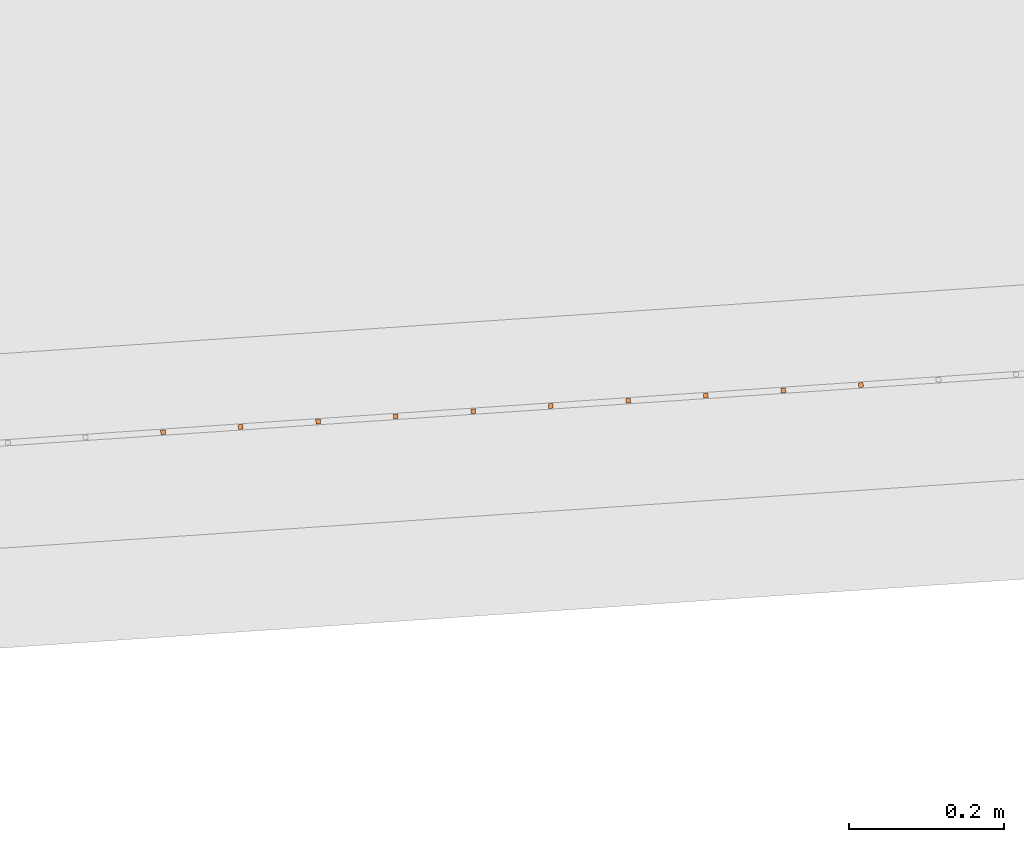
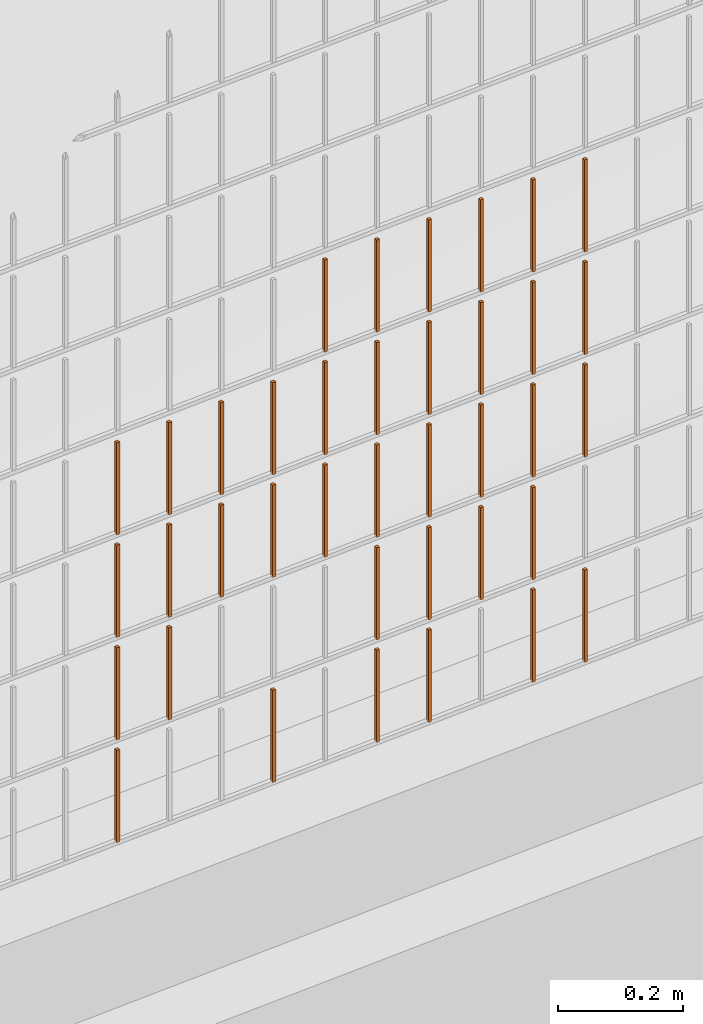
# One storey, part 129 of 1809: 38 proxies, 1 element without a shape of its own.
"""IFC2X3 building model written with IfcOpenShell, lengths in millimetres."""

from ifc_helpers import new_model, entity, si_unit, converted_unit, derived_unit, money_unit, direction, frame, origin_with_axes, place, context, subcontext, project, spatial, faceted_brep, source, transform, mapped, material, type_object, element, aggregate, save


model = new_model("IFC2X3")

# Units and contexts
model_context = context("Model", 3, precision=0.01, world=origin_with_axes(), true_north=direction((0.0, 1.0)))
body_context = subcontext(model_context, "Body", "Model", "MODEL_VIEW")
ifc_project = project(units=[si_unit("LENGTHUNIT", "METRE", prefix="MILLI"), si_unit("AREAUNIT", "SQUARE_METRE"), si_unit("VOLUMEUNIT", "CUBIC_METRE"), converted_unit("PLANEANGLEUNIT", "DEGREE", entity("IfcPlaneAngleMeasure", 0.0174532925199), si_unit("PLANEANGLEUNIT", "RADIAN"), dimensions=[0, 0, 0, 0, 0, 0, 0]), si_unit("SOLIDANGLEUNIT", "STERADIAN"), money_unit("EUR"), converted_unit("TIMEUNIT", "Year", entity("IfcTimeMeasure", 31556926.0), si_unit("TIMEUNIT", "SECOND"), dimensions=[0, 0, 1, 0, 0, 0, 0]), si_unit("MASSUNIT", "GRAM", prefix="KILO"), si_unit("THERMODYNAMICTEMPERATUREUNIT", "DEGREE_CELSIUS"), si_unit("LUMINOUSINTENSITYUNIT", "LUMEN"), si_unit("ENERGYUNIT", "JOULE", prefix="MEGA"), derived_unit("THERMALCONDUCTANCEUNIT", [(si_unit("POWERUNIT", "WATT"), 1), (si_unit("LENGTHUNIT", "METRE"), -1), (si_unit("THERMODYNAMICTEMPERATUREUNIT", "KELVIN"), -1)]), derived_unit("SPECIFICHEATCAPACITYUNIT", [(si_unit("ENERGYUNIT", "JOULE"), 1), (si_unit("MASSUNIT", "GRAM", prefix="KILO"), -1), (si_unit("THERMODYNAMICTEMPERATUREUNIT", "KELVIN"), -1)]), derived_unit("MASSDENSITYUNIT", [(si_unit("MASSUNIT", "GRAM", prefix="KILO"), 1), (si_unit("VOLUMEUNIT", "CUBIC_METRE"), -1)])], contexts=[model_context])

# Site, building, storey
site_placement = place(None, origin_with_axes())
site = spatial("IfcSite", under=ifc_project, at=site_placement, Name="Politse- ja Piirivalveameti ning Päästeameti ühishoone", CompositionType="ELEMENT")
building_placement = place(site_placement, origin_with_axes())
building = spatial("IfcBuilding", under=site, at=building_placement, Name="Politse- ja Piirivalveameti ning Päästeameti ühishoone", CompositionType="ELEMENT")
storey_placement = place(building_placement, origin_with_axes())
storey = spatial("IfcBuildingStorey", under=building, at=storey_placement, Name="Esimene korrus", CompositionType="ELEMENT", Elevation=0.0)

# Proxies
building_element_proxy_type_1 = type_object("IfcBuildingElementProxyType", Name="Railing Type", PredefinedType="NOTDEFINED")
proxy_1_placement = place(storey_placement, frame((89252.001212, -29183.4766571, 203.661247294), z_axis=(0.0, 0.0, 1.0), x_axis=(1.0, 0.0, 0.0)))
proxy_1 = element("IfcBuildingElementProxy", 1, at=proxy_1_placement, inside=storey, type_object=building_element_proxy_type_1, Name="PIIRDEAED")
ifc_material = material(Name="ET-03_Raud")
building_element_proxy_type_2 = type_object("IfcBuildingElementProxyType", Name="IfcBuildingElementProxy", PredefinedType="NOTDEFINED")
shared_shape_1 = source(origin_with_axes(), body_context, "Body", "Brep", [
    faceted_brep([(3.0, 3.0, -0.000752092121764), (-3.0, 3.0, -0.000752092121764), (-3.0, 3.0, 179.99926046), (3.0, 3.0, 179.99926046), (3.0, -3.0, 0.000752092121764), (-3.0, -3.0, 0.000752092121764), (-3.0, -3.0, 180.000764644), (3.0, -3.0, 180.000764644)], [[[0, 1, 2, 3]], [[0, 4, 5, 1]], [[1, 5, 6, 2]], [[3, 2, 6, 7]], [[4, 0, 3, 7]], [[5, 4, 7, 6]]]),
])
proxy_2_placement = place(proxy_1_placement, frame((-90221.1056283, -23391.8699646, 804.564652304), z_axis=(0.0, 0.0, 1.0), x_axis=(1.0, 0.0, 0.0)))
proxy_2 = element("IfcBuildingElementProxy", 2, at=proxy_2_placement, type_object=building_element_proxy_type_2, material=ifc_material, Name="BALUSTER - 001", context=body_context, shape_type="MappedRepresentation", body=[
    mapped(shared_shape_1, transform((0.0, 0.0, 0.0), x_axis=(-0.0673926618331, 0.997726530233, 0.0), y_axis=(-0.997726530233, -0.0673926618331, 0.0), z_axis=(0.0, 0.0, 1.0))),
])
shared_shape_2 = source(origin_with_axes(), body_context, "Body", "Brep", [
    faceted_brep([(3.0, 3.0, -0.000752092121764), (-3.0, 3.0, -0.000752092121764), (-3.0, 3.0, 179.99926046), (3.0, 3.0, 179.99926046), (3.0, -3.0, 0.000752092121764), (-3.0, -3.0, 0.000752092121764), (-3.0, -3.0, 180.000764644), (3.0, -3.0, 180.000764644)], [[[0, 1, 2, 3]], [[0, 4, 5, 1]], [[1, 5, 6, 2]], [[3, 2, 6, 7]], [[4, 0, 3, 7]], [[5, 4, 7, 6]]]),
])
proxy_3_placement = place(proxy_1_placement, frame((-90719.9688934, -23425.5662955, 804.439303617), z_axis=(0.0, 0.0, 1.0), x_axis=(1.0, 0.0, 0.0)))
proxy_3 = element("IfcBuildingElementProxy", 3, at=proxy_3_placement, type_object=building_element_proxy_type_2, material=ifc_material, Name="BALUSTER - 001", context=body_context, shape_type="MappedRepresentation", body=[
    mapped(shared_shape_2, transform((0.0, 0.0, 0.0), x_axis=(-0.0673926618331, 0.997726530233, 0.0), y_axis=(-0.997726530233, -0.0673926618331, 0.0), z_axis=(0.0, 0.0, 1.0))),
])
shared_shape_3 = source(origin_with_axes(), body_context, "Body", "Brep", [
    faceted_brep([(3.0, 3.0, -0.000752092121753), (-3.0, 3.0, -0.000752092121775), (-3.0, 3.0, 179.99926046), (3.0, 3.0, 179.99926046), (3.0, -3.0, 0.000752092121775), (-3.0, -3.0, 0.000752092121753), (-3.0, -3.0, 180.000764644), (3.0, -3.0, 180.000764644)], [[[0, 1, 2, 3]], [[0, 4, 5, 1]], [[1, 5, 6, 2]], [[3, 2, 6, 7]], [[4, 0, 3, 7]], [[5, 4, 7, 6]]]),
])
proxy_4_placement = place(proxy_1_placement, frame((-90320.8782813, -23398.6092308, 4.53958256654), z_axis=(0.0, 0.0, 1.0), x_axis=(1.0, 0.0, 0.0)))
proxy_4 = element("IfcBuildingElementProxy", 4, at=proxy_4_placement, type_object=building_element_proxy_type_2, material=ifc_material, Name="BALUSTER - 001", context=body_context, shape_type="MappedRepresentation", body=[
    mapped(shared_shape_3, transform((0.0, 0.0, 0.0), x_axis=(-0.0673926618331, 0.997726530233, 0.0), y_axis=(-0.997726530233, -0.0673926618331, 0.0), z_axis=(0.0, 0.0, 1.0))),
])
proxy_5_placement = place(proxy_1_placement, frame((-90320.8782813, -23398.6092308, 204.539582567), z_axis=(0.0, 0.0, 1.0), x_axis=(1.0, 0.0, 0.0)))
proxy_5 = element("IfcBuildingElementProxy", 5, at=proxy_5_placement, type_object=building_element_proxy_type_2, material=ifc_material, Name="BALUSTER - 001", context=body_context, shape_type="MappedRepresentation", body=[
    mapped(shared_shape_3, transform((0.0, 0.0, 0.0), x_axis=(-0.0673926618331, 0.997726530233, 0.0), y_axis=(-0.997726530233, -0.0673926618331, 0.0), z_axis=(0.0, 0.0, 1.0))),
])
shared_shape_4 = source(origin_with_axes(), body_context, "Body", "Brep", [
    faceted_brep([(3.0, 3.0, -0.000752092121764), (-3.0, 3.0, -0.000752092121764), (-3.0, 3.0, 179.99926046), (3.0, 3.0, 179.99926046), (3.0, -3.0, 0.000752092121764), (-3.0, -3.0, 0.000752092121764), (-3.0, -3.0, 180.000764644), (3.0, -3.0, 180.000764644)], [[[0, 1, 2, 3]], [[0, 4, 5, 1]], [[1, 5, 6, 2]], [[3, 2, 6, 7]], [[4, 0, 3, 7]], [[5, 4, 7, 6]]]),
])
proxy_6_placement = place(proxy_1_placement, frame((-90520.4235873, -23412.0877632, 4.48944309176), z_axis=(0.0, 0.0, 1.0), x_axis=(1.0, 0.0, 0.0)))
proxy_6 = element("IfcBuildingElementProxy", 6, at=proxy_6_placement, type_object=building_element_proxy_type_2, material=ifc_material, Name="BALUSTER - 001", context=body_context, shape_type="MappedRepresentation", body=[
    mapped(shared_shape_4, transform((0.0, 0.0, 0.0), x_axis=(-0.0673926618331, 0.997726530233, 0.0), y_axis=(-0.997726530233, -0.0673926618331, 0.0), z_axis=(0.0, 0.0, 1.0))),
])
shared_shape_5 = source(origin_with_axes(), body_context, "Body", "Brep", [
    faceted_brep([(3.0, 3.0, -0.000752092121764), (-3.0, 3.0, -0.000752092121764), (-3.0, 3.0, 179.99926046), (3.0, 3.0, 179.99926046), (3.0, -3.0, 0.000752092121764), (-3.0, -3.0, 0.000752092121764), (-3.0, -3.0, 180.000764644), (3.0, -3.0, 180.000764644)], [[[0, 1, 2, 3]], [[0, 4, 5, 1]], [[1, 5, 6, 2]], [[3, 2, 6, 7]], [[4, 0, 3, 7]], [[5, 4, 7, 6]]]),
])
proxy_7_placement = place(proxy_1_placement, frame((-90520.4235873, -23412.0877632, 204.489443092), z_axis=(0.0, 0.0, 1.0), x_axis=(1.0, 0.0, 0.0)))
proxy_7 = element("IfcBuildingElementProxy", 7, at=proxy_7_placement, type_object=building_element_proxy_type_2, material=ifc_material, Name="BALUSTER - 001", context=body_context, shape_type="MappedRepresentation", body=[
    mapped(shared_shape_5, transform((0.0, 0.0, 0.0), x_axis=(-0.0673926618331, 0.997726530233, 0.0), y_axis=(-0.997726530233, -0.0673926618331, 0.0), z_axis=(0.0, 0.0, 1.0))),
])
proxy_8_placement = place(proxy_1_placement, frame((-90520.4235873, -23412.0877632, 404.489443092), z_axis=(0.0, 0.0, 1.0), x_axis=(1.0, 0.0, 0.0)))
proxy_8 = element("IfcBuildingElementProxy", 8, at=proxy_8_placement, type_object=building_element_proxy_type_2, material=ifc_material, Name="BALUSTER - 001", context=body_context, shape_type="MappedRepresentation", body=[
    mapped(shared_shape_5, transform((0.0, 0.0, 0.0), x_axis=(-0.0673926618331, 0.997726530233, 0.0), y_axis=(-0.997726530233, -0.0673926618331, 0.0), z_axis=(0.0, 0.0, 1.0))),
])
proxy_9_placement = place(proxy_1_placement, frame((-90919.5141994, -23439.0448279, 404.389164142), z_axis=(0.0, 0.0, 1.0), x_axis=(1.0, 0.0, 0.0)))
proxy_9 = element("IfcBuildingElementProxy", 9, at=proxy_9_placement, type_object=building_element_proxy_type_2, material=ifc_material, Name="BALUSTER - 001", context=body_context, shape_type="MappedRepresentation", body=[
    mapped(shared_shape_5, transform((0.0, 0.0, 0.0), x_axis=(-0.0673926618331, 0.997726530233, 0.0), y_axis=(-0.997726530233, -0.0673926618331, 0.0), z_axis=(0.0, 0.0, 1.0))),
])
proxy_10_placement = place(proxy_1_placement, frame((-91019.2868524, -23445.7840941, 404.364094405), z_axis=(0.0, 0.0, 1.0), x_axis=(1.0, 0.0, 0.0)))
proxy_10 = element("IfcBuildingElementProxy", 10, at=proxy_10_placement, type_object=building_element_proxy_type_2, material=ifc_material, Name="BALUSTER - 001", context=body_context, shape_type="MappedRepresentation", body=[
    mapped(shared_shape_5, transform((0.0, 0.0, 0.0), x_axis=(-0.0673926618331, 0.997726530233, 0.0), y_axis=(-0.997726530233, -0.0673926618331, 0.0), z_axis=(0.0, 0.0, 1.0))),
])
proxy_11_placement = place(proxy_1_placement, frame((-91019.2868524, -23445.7840941, 604.364094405), z_axis=(0.0, 0.0, 1.0), x_axis=(1.0, 0.0, 0.0)))
proxy_11 = element("IfcBuildingElementProxy", 11, at=proxy_11_placement, type_object=building_element_proxy_type_2, material=ifc_material, Name="BALUSTER - 001", context=body_context, shape_type="MappedRepresentation", body=[
    mapped(shared_shape_5, transform((0.0, 0.0, 0.0), x_axis=(-0.0673926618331, 0.997726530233, 0.0), y_axis=(-0.997726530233, -0.0673926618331, 0.0), z_axis=(0.0, 0.0, 1.0))),
])
shared_shape_6 = source(origin_with_axes(), body_context, "Body", "Brep", [
    faceted_brep([(3.0, 3.0, -0.000752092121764), (-3.0, 3.0, -0.000752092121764), (-3.0, 3.0, 179.99926046), (3.0, 3.0, 179.99926046), (3.0, -3.0, 0.000752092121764), (-3.0, -3.0, 0.000752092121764), (-3.0, -3.0, 180.000764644), (3.0, -3.0, 180.000764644)], [[[0, 1, 2, 3]], [[0, 4, 5, 1]], [[1, 5, 6, 2]], [[3, 2, 6, 7]], [[4, 0, 3, 7]], [[5, 4, 7, 6]]]),
])
proxy_12_placement = place(proxy_1_placement, frame((-90520.4235873, -23412.0877632, 604.489443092), z_axis=(0.0, 0.0, 1.0), x_axis=(1.0, 0.0, 0.0)))
proxy_12 = element("IfcBuildingElementProxy", 12, at=proxy_12_placement, type_object=building_element_proxy_type_2, material=ifc_material, Name="BALUSTER - 001", context=body_context, shape_type="MappedRepresentation", body=[
    mapped(shared_shape_6, transform((0.0, 0.0, 0.0), x_axis=(-0.0673926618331, 0.997726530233, 0.0), y_axis=(-0.997726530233, -0.0673926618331, 0.0), z_axis=(0.0, 0.0, 1.0))),
])
shared_shape_7 = source(origin_with_axes(), body_context, "Body", "Brep", [
    faceted_brep([(3.0, 3.0, -0.000752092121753), (-3.0, 3.0, -0.000752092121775), (-3.0, 3.0, 179.99926046), (3.0, 3.0, 179.99926046), (3.0, -3.0, 0.000752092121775), (-3.0, -3.0, 0.000752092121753), (-3.0, -3.0, 180.000764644), (3.0, -3.0, 180.000764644)], [[[0, 1, 2, 3]], [[0, 4, 5, 1]], [[1, 5, 6, 2]], [[3, 2, 6, 7]], [[4, 0, 3, 7]], [[5, 4, 7, 6]]]),
])
proxy_13_placement = place(proxy_1_placement, frame((-90320.8782813, -23398.6092308, 604.539582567), z_axis=(0.0, 0.0, 1.0), x_axis=(1.0, 0.0, 0.0)))
proxy_13 = element("IfcBuildingElementProxy", 13, at=proxy_13_placement, type_object=building_element_proxy_type_2, material=ifc_material, Name="BALUSTER - 001", context=body_context, shape_type="MappedRepresentation", body=[
    mapped(shared_shape_7, transform((0.0, 0.0, 0.0), x_axis=(-0.0673926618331, 0.997726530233, 0.0), y_axis=(-0.997726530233, -0.0673926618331, 0.0), z_axis=(0.0, 0.0, 1.0))),
])
proxy_14_placement = place(proxy_1_placement, frame((-90320.8782813, -23398.6092308, 804.539582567), z_axis=(0.0, 0.0, 1.0), x_axis=(1.0, 0.0, 0.0)))
proxy_14 = element("IfcBuildingElementProxy", 14, at=proxy_14_placement, type_object=building_element_proxy_type_2, material=ifc_material, Name="BALUSTER - 001", context=body_context, shape_type="MappedRepresentation", body=[
    mapped(shared_shape_7, transform((0.0, 0.0, 0.0), x_axis=(-0.0673926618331, 0.997726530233, 0.0), y_axis=(-0.997726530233, -0.0673926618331, 0.0), z_axis=(0.0, 0.0, 1.0))),
])
shared_shape_8 = source(origin_with_axes(), body_context, "Body", "Brep", [
    faceted_brep([(3.0, 3.0, -0.000752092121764), (-3.0, 3.0, -0.000752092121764), (-3.0, 3.0, 179.99926046), (3.0, 3.0, 179.99926046), (3.0, -3.0, 0.000752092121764), (-3.0, -3.0, 0.000752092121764), (-3.0, -3.0, 180.000764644), (3.0, -3.0, 180.000764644)], [[[0, 1, 2, 3]], [[0, 4, 5, 1]], [[1, 5, 6, 2]], [[3, 2, 6, 7]], [[4, 0, 3, 7]], [[5, 4, 7, 6]]]),
])
proxy_15_placement = place(proxy_1_placement, frame((-90520.4235873, -23412.0877632, 804.489443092), z_axis=(0.0, 0.0, 1.0), x_axis=(1.0, 0.0, 0.0)))
proxy_15 = element("IfcBuildingElementProxy", 15, at=proxy_15_placement, type_object=building_element_proxy_type_2, material=ifc_material, Name="BALUSTER - 001", context=body_context, shape_type="MappedRepresentation", body=[
    mapped(shared_shape_8, transform((0.0, 0.0, 0.0), x_axis=(-0.0673926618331, 0.997726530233, 0.0), y_axis=(-0.997726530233, -0.0673926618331, 0.0), z_axis=(0.0, 0.0, 1.0))),
])
shared_shape_9 = source(origin_with_axes(), body_context, "Body", "Brep", [
    faceted_brep([(3.0, 3.0, -0.000752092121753), (-3.0, 3.0, -0.000752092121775), (-3.0, 3.0, 179.99926046), (3.0, 3.0, 179.99926046), (3.0, -3.0, 0.000752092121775), (-3.0, -3.0, 0.000752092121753), (-3.0, -3.0, 180.000764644), (3.0, -3.0, 180.000764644)], [[[0, 1, 2, 3]], [[0, 4, 5, 1]], [[1, 5, 6, 2]], [[3, 2, 6, 7]], [[4, 0, 3, 7]], [[5, 4, 7, 6]]]),
])
proxy_16_placement = place(proxy_1_placement, frame((-90320.8782813, -23398.6092308, 404.539582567), z_axis=(0.0, 0.0, 1.0), x_axis=(1.0, 0.0, 0.0)))
proxy_16 = element("IfcBuildingElementProxy", 16, at=proxy_16_placement, type_object=building_element_proxy_type_2, material=ifc_material, Name="BALUSTER - 001", context=body_context, shape_type="MappedRepresentation", body=[
    mapped(shared_shape_9, transform((0.0, 0.0, 0.0), x_axis=(-0.0673926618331, 0.997726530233, 0.0), y_axis=(-0.997726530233, -0.0673926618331, 0.0), z_axis=(0.0, 0.0, 1.0))),
])
shared_shape_10 = source(origin_with_axes(), body_context, "Body", "Brep", [
    faceted_brep([(3.0, 3.0, -0.000752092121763), (-3.0, 3.0, -0.000752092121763), (-3.0, 3.0, 179.99926046), (3.0, 3.0, 179.99926046), (3.0, -3.0, 0.000752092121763), (-3.0, -3.0, 0.000752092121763), (-3.0, -3.0, 180.000764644), (3.0, -3.0, 180.000764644)], [[[0, 1, 2, 3]], [[0, 4, 5, 1]], [[1, 5, 6, 2]], [[3, 2, 6, 7]], [[4, 0, 3, 7]], [[5, 4, 7, 6]]]),
])
proxy_17_placement = place(proxy_1_placement, frame((-90221.1056283, -23391.8699646, 4.56465230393), z_axis=(0.0, 0.0, 1.0), x_axis=(1.0, 0.0, 0.0)))
proxy_17 = element("IfcBuildingElementProxy", 17, at=proxy_17_placement, type_object=building_element_proxy_type_2, material=ifc_material, Name="BALUSTER - 001", context=body_context, shape_type="MappedRepresentation", body=[
    mapped(shared_shape_10, transform((0.0, 0.0, 0.0), x_axis=(-0.0673926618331, 0.997726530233, 0.0), y_axis=(-0.997726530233, -0.0673926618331, 0.0), z_axis=(0.0, 0.0, 1.0))),
])
proxy_18_placement = place(proxy_1_placement, frame((-90620.1962404, -23418.8270294, 4.46437335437), z_axis=(0.0, 0.0, 1.0), x_axis=(1.0, 0.0, 0.0)))
proxy_18 = element("IfcBuildingElementProxy", 18, at=proxy_18_placement, type_object=building_element_proxy_type_2, material=ifc_material, Name="BALUSTER - 001", context=body_context, shape_type="MappedRepresentation", body=[
    mapped(shared_shape_10, transform((0.0, 0.0, 0.0), x_axis=(-0.0673926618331, 0.997726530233, 0.0), y_axis=(-0.997726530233, -0.0673926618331, 0.0), z_axis=(0.0, 0.0, 1.0))),
])
shared_shape_11 = source(origin_with_axes(), body_context, "Body", "Brep", [
    faceted_brep([(3.0, 3.0, -0.000752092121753), (-3.0, 3.0, -0.000752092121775), (-3.0, 3.0, 179.99926046), (3.0, 3.0, 179.99926046), (3.0, -3.0, 0.000752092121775), (-3.0, -3.0, 0.000752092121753), (-3.0, -3.0, 180.000764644), (3.0, -3.0, 180.000764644)], [[[0, 1, 2, 3]], [[0, 4, 5, 1]], [[1, 5, 6, 2]], [[3, 2, 6, 7]], [[4, 0, 3, 7]], [[5, 4, 7, 6]]]),
])
proxy_19_placement = place(proxy_1_placement, frame((-91119.0595055, -23452.5233603, 204.339024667), z_axis=(0.0, 0.0, 1.0), x_axis=(1.0, 0.0, 0.0)))
proxy_19 = element("IfcBuildingElementProxy", 19, at=proxy_19_placement, type_object=building_element_proxy_type_2, material=ifc_material, Name="BALUSTER - 001", context=body_context, shape_type="MappedRepresentation", body=[
    mapped(shared_shape_11, transform((0.0, 0.0, 0.0), x_axis=(-0.0673926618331, 0.997726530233, 0.0), y_axis=(-0.997726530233, -0.0673926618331, 0.0), z_axis=(0.0, 0.0, 1.0))),
])
proxy_20_placement = place(proxy_1_placement, frame((-91119.0595055, -23452.5233603, 604.339024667), z_axis=(0.0, 0.0, 1.0), x_axis=(1.0, 0.0, 0.0)))
proxy_20 = element("IfcBuildingElementProxy", 20, at=proxy_20_placement, type_object=building_element_proxy_type_2, material=ifc_material, Name="BALUSTER - 001", context=body_context, shape_type="MappedRepresentation", body=[
    mapped(shared_shape_11, transform((0.0, 0.0, 0.0), x_axis=(-0.0673926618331, 0.997726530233, 0.0), y_axis=(-0.997726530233, -0.0673926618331, 0.0), z_axis=(0.0, 0.0, 1.0))),
])
shared_shape_12 = source(origin_with_axes(), body_context, "Body", "Brep", [
    faceted_brep([(3.0, 3.0, -0.000752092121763), (-3.0, 3.0, -0.000752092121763), (-3.0, 3.0, 179.99926046), (3.0, 3.0, 179.99926046), (3.0, -3.0, 0.000752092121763), (-3.0, -3.0, 0.000752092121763), (-3.0, -3.0, 180.000764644), (3.0, -3.0, 180.000764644)], [[[0, 1, 2, 3]], [[0, 4, 5, 1]], [[1, 5, 6, 2]], [[3, 2, 6, 7]], [[4, 0, 3, 7]], [[5, 4, 7, 6]]]),
])
proxy_21_placement = place(proxy_1_placement, frame((-90719.9688934, -23425.5662955, 404.439303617), z_axis=(0.0, 0.0, 1.0), x_axis=(1.0, 0.0, 0.0)))
proxy_21 = element("IfcBuildingElementProxy", 21, at=proxy_21_placement, type_object=building_element_proxy_type_2, material=ifc_material, Name="BALUSTER - 001", context=body_context, shape_type="MappedRepresentation", body=[
    mapped(shared_shape_12, transform((0.0, 0.0, 0.0), x_axis=(-0.0673926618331, 0.997726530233, 0.0), y_axis=(-0.997726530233, -0.0673926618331, 0.0), z_axis=(0.0, 0.0, 1.0))),
])
proxy_22_placement = place(proxy_1_placement, frame((-90719.9688934, -23425.5662955, 604.439303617), z_axis=(0.0, 0.0, 1.0), x_axis=(1.0, 0.0, 0.0)))
proxy_22 = element("IfcBuildingElementProxy", 22, at=proxy_22_placement, type_object=building_element_proxy_type_2, material=ifc_material, Name="BALUSTER - 001", context=body_context, shape_type="MappedRepresentation", body=[
    mapped(shared_shape_12, transform((0.0, 0.0, 0.0), x_axis=(-0.0673926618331, 0.997726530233, 0.0), y_axis=(-0.997726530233, -0.0673926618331, 0.0), z_axis=(0.0, 0.0, 1.0))),
])
shared_shape_13 = source(origin_with_axes(), body_context, "Body", "Brep", [
    faceted_brep([(3.0, 3.0, -0.000752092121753), (-3.0, 3.0, -0.000752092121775), (-3.0, 3.0, 179.99926046), (3.0, 3.0, 179.99926046), (3.0, -3.0, 0.000752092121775), (-3.0, -3.0, 0.000752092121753), (-3.0, -3.0, 180.000764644), (3.0, -3.0, 180.000764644)], [[[0, 1, 2, 3]], [[0, 4, 5, 1]], [[1, 5, 6, 2]], [[3, 2, 6, 7]], [[4, 0, 3, 7]], [[5, 4, 7, 6]]]),
])
proxy_23_placement = place(proxy_1_placement, frame((-91119.0595055, -23452.5233603, 4.33902466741), z_axis=(0.0, 0.0, 1.0), x_axis=(1.0, 0.0, 0.0)))
proxy_23 = element("IfcBuildingElementProxy", 23, at=proxy_23_placement, type_object=building_element_proxy_type_2, material=ifc_material, Name="BALUSTER - 001", context=body_context, shape_type="MappedRepresentation", body=[
    mapped(shared_shape_13, transform((0.0, 0.0, 0.0), x_axis=(-0.0673926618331, 0.997726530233, 0.0), y_axis=(-0.997726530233, -0.0673926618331, 0.0), z_axis=(0.0, 0.0, 1.0))),
])
shared_shape_14 = source(origin_with_axes(), body_context, "Body", "Brep", [
    faceted_brep([(3.0, 3.0, -0.000752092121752), (-3.0, 3.0, -0.000752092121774), (-3.0, 3.0, 179.99926046), (3.0, 3.0, 179.99926046), (3.0, -3.0, 0.000752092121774), (-3.0, -3.0, 0.000752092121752), (-3.0, -3.0, 180.000764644), (3.0, -3.0, 180.000764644)], [[[0, 1, 2, 3]], [[0, 4, 5, 1]], [[1, 5, 6, 2]], [[3, 2, 6, 7]], [[4, 0, 3, 7]], [[5, 4, 7, 6]]]),
])
proxy_24_placement = place(proxy_1_placement, frame((-90819.7415464, -23432.3055617, 604.41423388), z_axis=(0.0, 0.0, 1.0), x_axis=(1.0, 0.0, 0.0)))
proxy_24 = element("IfcBuildingElementProxy", 24, at=proxy_24_placement, type_object=building_element_proxy_type_2, material=ifc_material, Name="BALUSTER - 001", context=body_context, shape_type="MappedRepresentation", body=[
    mapped(shared_shape_14, transform((0.0, 0.0, 0.0), x_axis=(-0.0673926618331, 0.997726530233, 0.0), y_axis=(-0.997726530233, -0.0673926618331, 0.0), z_axis=(0.0, 0.0, 1.0))),
])
shared_shape_15 = source(origin_with_axes(), body_context, "Body", "Brep", [
    faceted_brep([(3.0, 3.0, -0.000752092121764), (-3.0, 3.0, -0.000752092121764), (-3.0, 3.0, 179.99926046), (3.0, 3.0, 179.99926046), (3.0, -3.0, 0.000752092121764), (-3.0, -3.0, 0.000752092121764), (-3.0, -3.0, 180.000764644), (3.0, -3.0, 180.000764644)], [[[0, 1, 2, 3]], [[0, 4, 5, 1]], [[1, 5, 6, 2]], [[3, 2, 6, 7]], [[4, 0, 3, 7]], [[5, 4, 7, 6]]]),
])
proxy_25_placement = place(proxy_1_placement, frame((-90919.5141994, -23439.0448279, 604.389164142), z_axis=(0.0, 0.0, 1.0), x_axis=(1.0, 0.0, 0.0)))
proxy_25 = element("IfcBuildingElementProxy", 25, at=proxy_25_placement, type_object=building_element_proxy_type_2, material=ifc_material, Name="BALUSTER - 001", context=body_context, shape_type="MappedRepresentation", body=[
    mapped(shared_shape_15, transform((0.0, 0.0, 0.0), x_axis=(-0.0673926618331, 0.997726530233, 0.0), y_axis=(-0.997726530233, -0.0673926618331, 0.0), z_axis=(0.0, 0.0, 1.0))),
])
shared_shape_16 = source(origin_with_axes(), body_context, "Body", "Brep", [
    faceted_brep([(3.0, 3.0, -0.000752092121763), (-3.0, 3.0, -0.000752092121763), (-3.0, 3.0, 179.99926046), (3.0, 3.0, 179.99926046), (3.0, -3.0, 0.000752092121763), (-3.0, -3.0, 0.000752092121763), (-3.0, -3.0, 180.000764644), (3.0, -3.0, 180.000764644)], [[[0, 1, 2, 3]], [[0, 4, 5, 1]], [[1, 5, 6, 2]], [[3, 2, 6, 7]], [[4, 0, 3, 7]], [[5, 4, 7, 6]]]),
])
proxy_26_placement = place(proxy_1_placement, frame((-90420.6509343, -23405.348497, 804.514512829), z_axis=(0.0, 0.0, 1.0), x_axis=(1.0, 0.0, 0.0)))
proxy_26 = element("IfcBuildingElementProxy", 26, at=proxy_26_placement, type_object=building_element_proxy_type_2, material=ifc_material, Name="BALUSTER - 001", context=body_context, shape_type="MappedRepresentation", body=[
    mapped(shared_shape_16, transform((0.0, 0.0, 0.0), x_axis=(-0.0673926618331, 0.997726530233, 0.0), y_axis=(-0.997726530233, -0.0673926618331, 0.0), z_axis=(0.0, 0.0, 1.0))),
])
shared_shape_17 = source(origin_with_axes(), body_context, "Body", "Brep", [
    faceted_brep([(3.0, 3.0, -0.000752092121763), (-3.0, 3.0, -0.000752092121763), (-3.0, 3.0, 179.99926046), (3.0, 3.0, 179.99926046), (3.0, -3.0, 0.000752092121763), (-3.0, -3.0, 0.000752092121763), (-3.0, -3.0, 180.000764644), (3.0, -3.0, 180.000764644)], [[[0, 1, 2, 3]], [[0, 4, 5, 1]], [[1, 5, 6, 2]], [[3, 2, 6, 7]], [[4, 0, 3, 7]], [[5, 4, 7, 6]]]),
])
proxy_27_placement = place(proxy_1_placement, frame((-90620.1962404, -23418.8270294, 804.464373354), z_axis=(0.0, 0.0, 1.0), x_axis=(1.0, 0.0, 0.0)))
proxy_27 = element("IfcBuildingElementProxy", 27, at=proxy_27_placement, type_object=building_element_proxy_type_2, material=ifc_material, Name="BALUSTER - 001", context=body_context, shape_type="MappedRepresentation", body=[
    mapped(shared_shape_17, transform((0.0, 0.0, 0.0), x_axis=(-0.0673926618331, 0.997726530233, 0.0), y_axis=(-0.997726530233, -0.0673926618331, 0.0), z_axis=(0.0, 0.0, 1.0))),
])
shared_shape_18 = source(origin_with_axes(), body_context, "Body", "Brep", [
    faceted_brep([(3.0, 3.0, -0.000752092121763), (-3.0, 3.0, -0.000752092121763), (-3.0, 3.0, 179.99926046), (3.0, 3.0, 179.99926046), (3.0, -3.0, 0.000752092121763), (-3.0, -3.0, 0.000752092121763), (-3.0, -3.0, 180.000764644), (3.0, -3.0, 180.000764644)], [[[0, 1, 2, 3]], [[0, 4, 5, 1]], [[1, 5, 6, 2]], [[3, 2, 6, 7]], [[4, 0, 3, 7]], [[5, 4, 7, 6]]]),
])
proxy_28_placement = place(proxy_1_placement, frame((-91019.2868524, -23445.7840941, 204.364094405), z_axis=(0.0, 0.0, 1.0), x_axis=(1.0, 0.0, 0.0)))
proxy_28 = element("IfcBuildingElementProxy", 28, at=proxy_28_placement, type_object=building_element_proxy_type_2, material=ifc_material, Name="BALUSTER - 001", context=body_context, shape_type="MappedRepresentation", body=[
    mapped(shared_shape_18, transform((0.0, 0.0, 0.0), x_axis=(-0.0673926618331, 0.997726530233, 0.0), y_axis=(-0.997726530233, -0.0673926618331, 0.0), z_axis=(0.0, 0.0, 1.0))),
])
shared_shape_19 = source(origin_with_axes(), body_context, "Body", "Brep", [
    faceted_brep([(3.0, 3.0, -0.000752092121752), (-3.0, 3.0, -0.000752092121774), (-3.0, 3.0, 179.99926046), (3.0, 3.0, 179.99926046), (3.0, -3.0, 0.000752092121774), (-3.0, -3.0, 0.000752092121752), (-3.0, -3.0, 180.000764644), (3.0, -3.0, 180.000764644)], [[[0, 1, 2, 3]], [[0, 4, 5, 1]], [[1, 5, 6, 2]], [[3, 2, 6, 7]], [[4, 0, 3, 7]], [[5, 4, 7, 6]]]),
])
proxy_29_placement = place(proxy_1_placement, frame((-90819.7415464, -23432.3055617, 4.41423387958), z_axis=(0.0, 0.0, 1.0), x_axis=(1.0, 0.0, 0.0)))
proxy_29 = element("IfcBuildingElementProxy", 29, at=proxy_29_placement, type_object=building_element_proxy_type_2, material=ifc_material, Name="BALUSTER - 001", context=body_context, shape_type="MappedRepresentation", body=[
    mapped(shared_shape_19, transform((0.0, 0.0, 0.0), x_axis=(-0.0673926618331, 0.997726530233, 0.0), y_axis=(-0.997726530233, -0.0673926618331, 0.0), z_axis=(0.0, 0.0, 1.0))),
])
shared_shape_20 = source(origin_with_axes(), body_context, "Body", "Brep", [
    faceted_brep([(3.0, 3.0, -0.000752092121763), (-3.0, 3.0, -0.000752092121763), (-3.0, 3.0, 179.99926046), (3.0, 3.0, 179.99926046), (3.0, -3.0, 0.000752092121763), (-3.0, -3.0, 0.000752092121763), (-3.0, -3.0, 180.000764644), (3.0, -3.0, 180.000764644)], [[[0, 1, 2, 3]], [[0, 4, 5, 1]], [[1, 5, 6, 2]], [[3, 2, 6, 7]], [[4, 0, 3, 7]], [[5, 4, 7, 6]]]),
])
proxy_30_placement = place(proxy_1_placement, frame((-90420.6509343, -23405.348497, 204.514512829), z_axis=(0.0, 0.0, 1.0), x_axis=(1.0, 0.0, 0.0)))
proxy_30 = element("IfcBuildingElementProxy", 30, at=proxy_30_placement, type_object=building_element_proxy_type_2, material=ifc_material, Name="BALUSTER - 001", context=body_context, shape_type="MappedRepresentation", body=[
    mapped(shared_shape_20, transform((0.0, 0.0, 0.0), x_axis=(-0.0673926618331, 0.997726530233, 0.0), y_axis=(-0.997726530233, -0.0673926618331, 0.0), z_axis=(0.0, 0.0, 1.0))),
])
proxy_31_placement = place(proxy_1_placement, frame((-90221.1056283, -23391.8699646, 404.564652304), z_axis=(0.0, 0.0, 1.0), x_axis=(1.0, 0.0, 0.0)))
proxy_31 = element("IfcBuildingElementProxy", 31, at=proxy_31_placement, type_object=building_element_proxy_type_2, material=ifc_material, Name="BALUSTER - 001", context=body_context, shape_type="MappedRepresentation", body=[
    mapped(shared_shape_20, transform((0.0, 0.0, 0.0), x_axis=(-0.0673926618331, 0.997726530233, 0.0), y_axis=(-0.997726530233, -0.0673926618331, 0.0), z_axis=(0.0, 0.0, 1.0))),
])
proxy_32_placement = place(proxy_1_placement, frame((-90620.1962404, -23418.8270294, 404.464373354), z_axis=(0.0, 0.0, 1.0), x_axis=(1.0, 0.0, 0.0)))
proxy_32 = element("IfcBuildingElementProxy", 32, at=proxy_32_placement, type_object=building_element_proxy_type_2, material=ifc_material, Name="BALUSTER - 001", context=body_context, shape_type="MappedRepresentation", body=[
    mapped(shared_shape_20, transform((0.0, 0.0, 0.0), x_axis=(-0.0673926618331, 0.997726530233, 0.0), y_axis=(-0.997726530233, -0.0673926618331, 0.0), z_axis=(0.0, 0.0, 1.0))),
])
proxy_33_placement = place(proxy_1_placement, frame((-90420.6509343, -23405.348497, 604.514512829), z_axis=(0.0, 0.0, 1.0), x_axis=(1.0, 0.0, 0.0)))
proxy_33 = element("IfcBuildingElementProxy", 33, at=proxy_33_placement, type_object=building_element_proxy_type_2, material=ifc_material, Name="BALUSTER - 001", context=body_context, shape_type="MappedRepresentation", body=[
    mapped(shared_shape_20, transform((0.0, 0.0, 0.0), x_axis=(-0.0673926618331, 0.997726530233, 0.0), y_axis=(-0.997726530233, -0.0673926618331, 0.0), z_axis=(0.0, 0.0, 1.0))),
])
proxy_34_placement = place(proxy_1_placement, frame((-90620.1962404, -23418.8270294, 604.464373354), z_axis=(0.0, 0.0, 1.0), x_axis=(1.0, 0.0, 0.0)))
proxy_34 = element("IfcBuildingElementProxy", 34, at=proxy_34_placement, type_object=building_element_proxy_type_2, material=ifc_material, Name="BALUSTER - 001", context=body_context, shape_type="MappedRepresentation", body=[
    mapped(shared_shape_20, transform((0.0, 0.0, 0.0), x_axis=(-0.0673926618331, 0.997726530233, 0.0), y_axis=(-0.997726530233, -0.0673926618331, 0.0), z_axis=(0.0, 0.0, 1.0))),
])
shared_shape_21 = source(origin_with_axes(), body_context, "Body", "Brep", [
    faceted_brep([(3.0, 3.0, -0.000752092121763), (-3.0, 3.0, -0.000752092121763), (-3.0, 3.0, 179.99926046), (3.0, 3.0, 179.99926046), (3.0, -3.0, 0.000752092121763), (-3.0, -3.0, 0.000752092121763), (-3.0, -3.0, 180.000764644), (3.0, -3.0, 180.000764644)], [[[0, 1, 2, 3]], [[0, 4, 5, 1]], [[1, 5, 6, 2]], [[3, 2, 6, 7]], [[4, 0, 3, 7]], [[5, 4, 7, 6]]]),
])
proxy_35_placement = place(proxy_1_placement, frame((-90620.1962404, -23418.8270294, 204.464373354), z_axis=(0.0, 0.0, 1.0), x_axis=(1.0, 0.0, 0.0)))
proxy_35 = element("IfcBuildingElementProxy", 35, at=proxy_35_placement, type_object=building_element_proxy_type_2, material=ifc_material, Name="BALUSTER - 001", context=body_context, shape_type="MappedRepresentation", body=[
    mapped(shared_shape_21, transform((0.0, 0.0, 0.0), x_axis=(-0.0673926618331, 0.997726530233, 0.0), y_axis=(-0.997726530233, -0.0673926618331, 0.0), z_axis=(0.0, 0.0, 1.0))),
])
proxy_36_placement = place(proxy_1_placement, frame((-90420.6509343, -23405.348497, 404.514512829), z_axis=(0.0, 0.0, 1.0), x_axis=(1.0, 0.0, 0.0)))
proxy_36 = element("IfcBuildingElementProxy", 36, at=proxy_36_placement, type_object=building_element_proxy_type_2, material=ifc_material, Name="BALUSTER - 001", context=body_context, shape_type="MappedRepresentation", body=[
    mapped(shared_shape_21, transform((0.0, 0.0, 0.0), x_axis=(-0.0673926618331, 0.997726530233, 0.0), y_axis=(-0.997726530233, -0.0673926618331, 0.0), z_axis=(0.0, 0.0, 1.0))),
])
proxy_37_placement = place(proxy_1_placement, frame((-90221.1056283, -23391.8699646, 604.564652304), z_axis=(0.0, 0.0, 1.0), x_axis=(1.0, 0.0, 0.0)))
proxy_37 = element("IfcBuildingElementProxy", 37, at=proxy_37_placement, type_object=building_element_proxy_type_2, material=ifc_material, Name="BALUSTER - 001", context=body_context, shape_type="MappedRepresentation", body=[
    mapped(shared_shape_21, transform((0.0, 0.0, 0.0), x_axis=(-0.0673926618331, 0.997726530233, 0.0), y_axis=(-0.997726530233, -0.0673926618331, 0.0), z_axis=(0.0, 0.0, 1.0))),
])
shared_shape_22 = source(origin_with_axes(), body_context, "Body", "Brep", [
    faceted_brep([(3.0, 3.0, -0.000752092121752), (-3.0, 3.0, -0.000752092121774), (-3.0, 3.0, 179.99926046), (3.0, 3.0, 179.99926046), (3.0, -3.0, 0.000752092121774), (-3.0, -3.0, 0.000752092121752), (-3.0, -3.0, 180.000764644), (3.0, -3.0, 180.000764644)], [[[0, 1, 2, 3]], [[0, 4, 5, 1]], [[1, 5, 6, 2]], [[3, 2, 6, 7]], [[4, 0, 3, 7]], [[5, 4, 7, 6]]]),
])
proxy_38_placement = place(proxy_1_placement, frame((-90819.7415464, -23432.3055617, 404.41423388), z_axis=(0.0, 0.0, 1.0), x_axis=(1.0, 0.0, 0.0)))
proxy_38 = element("IfcBuildingElementProxy", 38, at=proxy_38_placement, type_object=building_element_proxy_type_2, material=ifc_material, Name="BALUSTER - 001", context=body_context, shape_type="MappedRepresentation", body=[
    mapped(shared_shape_22, transform((0.0, 0.0, 0.0), x_axis=(-0.0673926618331, 0.997726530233, 0.0), y_axis=(-0.997726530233, -0.0673926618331, 0.0), z_axis=(0.0, 0.0, 1.0))),
])
shared_shape_23 = source(origin_with_axes(), body_context, "Body", "Brep", [
    faceted_brep([(3.0, 3.0, -0.000752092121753), (-3.0, 3.0, -0.000752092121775), (-3.0, 3.0, 179.99926046), (3.0, 3.0, 179.99926046), (3.0, -3.0, 0.000752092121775), (-3.0, -3.0, 0.000752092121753), (-3.0, -3.0, 180.000764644), (3.0, -3.0, 180.000764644)], [[[0, 1, 2, 3]], [[0, 4, 5, 1]], [[1, 5, 6, 2]], [[3, 2, 6, 7]], [[4, 0, 3, 7]], [[5, 4, 7, 6]]]),
])
proxy_39_placement = place(proxy_1_placement, frame((-91119.0595055, -23452.5233603, 404.339024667), z_axis=(0.0, 0.0, 1.0), x_axis=(1.0, 0.0, 0.0)))
proxy_39 = element("IfcBuildingElementProxy", 39, at=proxy_39_placement, type_object=building_element_proxy_type_2, material=ifc_material, Name="BALUSTER - 001", context=body_context, shape_type="MappedRepresentation", body=[
    mapped(shared_shape_23, transform((0.0, 0.0, 0.0), x_axis=(-0.0673926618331, 0.997726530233, 0.0), y_axis=(-0.997726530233, -0.0673926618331, 0.0), z_axis=(0.0, 0.0, 1.0))),
])
aggregate(proxy_1, [proxy_17, proxy_4, proxy_6, proxy_18, proxy_29, proxy_23, proxy_5, proxy_30, proxy_7, proxy_35, proxy_28, proxy_19, proxy_31, proxy_16, proxy_36, proxy_8, proxy_32, proxy_21, proxy_38, proxy_9, proxy_10, proxy_39, proxy_37, proxy_13, proxy_33, proxy_12, proxy_34, proxy_22, proxy_24, proxy_25, proxy_11, proxy_20, proxy_2, proxy_14, proxy_26, proxy_15, proxy_27, proxy_3])

save(model, "model.ifc")
